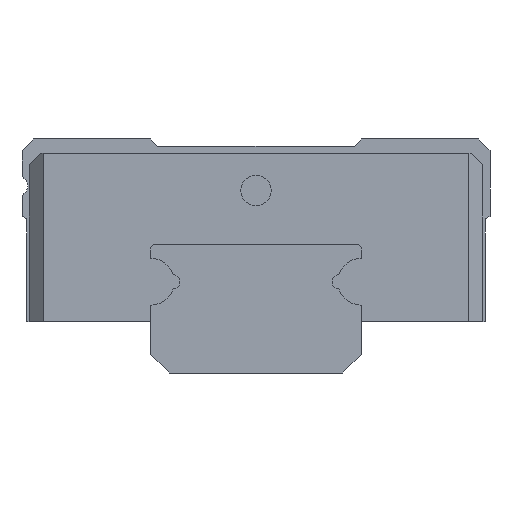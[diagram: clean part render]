
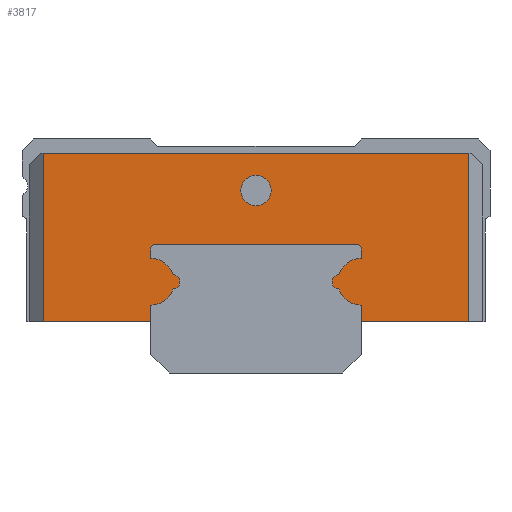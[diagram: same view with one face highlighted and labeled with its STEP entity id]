
A CAD part, left-side view. The second image highlights one B-rep face of the part: STEP entity #3817.
In plain terms, the highlighted planar face has unit normal (-1, 0, 0).
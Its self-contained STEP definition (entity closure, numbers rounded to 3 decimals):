
#1997=CARTESIAN_POINT('',(0.0,9.1,9.4));
#1998=VERTEX_POINT('',#1997);
#2005=CARTESIAN_POINT('',(0.0,-9.1,9.4));
#2006=VERTEX_POINT('',#2005);
#2007=CARTESIAN_POINT('',(0.0,-9.1,9.4));
#2008=DIRECTION('',(0.0,1.0,0.0));
#2009=VECTOR('',#2008,18.2);
#2010=LINE('',#2007,#2009);
#2011=EDGE_CURVE('',#2006,#1998,#2010,.T.);
#2124=CARTESIAN_POINT('',(0.0,4.5,2.2));
#2125=VERTEX_POINT('',#2124);
#2132=CARTESIAN_POINT('',(0.0,9.1,2.2));
#2133=VERTEX_POINT('',#2132);
#2134=CARTESIAN_POINT('',(0.0,9.1,2.2));
#2135=DIRECTION('',(0.0,-1.0,0.0));
#2136=VECTOR('',#2135,4.6);
#2137=LINE('',#2134,#2136);
#2138=EDGE_CURVE('',#2133,#2125,#2137,.T.);
#2273=CARTESIAN_POINT('',(0.0,0.65,7.8));
#2274=VERTEX_POINT('',#2273);
#2275=CARTESIAN_POINT('',(0.0,0.,7.8));
#2276=DIRECTION('',(1.0,0.0,0.0));
#2277=DIRECTION('',(0.0,-1.0,0.0));
#2278=AXIS2_PLACEMENT_3D('',#2275,#2276,#2277);
#2279=CIRCLE('',#2278,0.65);
#2280=EDGE_CURVE('',#2274,#2274,#2279,.T.);
#3236=CARTESIAN_POINT('',(0.0,9.1,9.4));
#3237=DIRECTION('',(0.0,0.0,-1.0));
#3238=VECTOR('',#3237,7.2);
#3239=LINE('',#3236,#3238);
#3240=EDGE_CURVE('',#1998,#2133,#3239,.T.);
#3270=CARTESIAN_POINT('',(0.0,-9.1,2.2));
#3271=VERTEX_POINT('',#3270);
#3272=CARTESIAN_POINT('',(0.0,-9.1,2.2));
#3273=DIRECTION('',(0.0,0.0,1.0));
#3274=VECTOR('',#3273,7.2);
#3275=LINE('',#3272,#3274);
#3276=EDGE_CURVE('',#3271,#2006,#3275,.T.);
#3324=CARTESIAN_POINT('',(0.0,4.5,2.9));
#3325=VERTEX_POINT('',#3324);
#3332=CARTESIAN_POINT('',(0.0,4.5,2.2));
#3333=DIRECTION('',(0.0,0.0,1.0));
#3334=VECTOR('',#3333,0.7);
#3335=LINE('',#3332,#3334);
#3336=EDGE_CURVE('',#2125,#3325,#3335,.T.);
#3356=CARTESIAN_POINT('',(0.0,3.546,3.6));
#3357=VERTEX_POINT('',#3356);
#3364=CARTESIAN_POINT('',(0.0,4.5,3.9));
#3365=DIRECTION('',(-1.0,0.0,0.0));
#3366=DIRECTION('',(0.0,0.954,0.3));
#3367=AXIS2_PLACEMENT_3D('',#3364,#3365,#3366);
#3368=CIRCLE('',#3367,1.0);
#3369=EDGE_CURVE('',#3325,#3357,#3368,.T.);
#3389=CARTESIAN_POINT('',(0.0,3.546,4.2));
#3390=VERTEX_POINT('',#3389);
#3397=CARTESIAN_POINT('',(0.0,3.55,3.9));
#3398=DIRECTION('',(-1.0,0.0,0.0));
#3399=DIRECTION('',(0.0,0.013,-1.));
#3400=AXIS2_PLACEMENT_3D('',#3397,#3398,#3399);
#3401=CIRCLE('',#3400,0.3);
#3402=EDGE_CURVE('',#3357,#3390,#3401,.T.);
#3422=CARTESIAN_POINT('',(0.0,4.5,4.9));
#3423=VERTEX_POINT('',#3422);
#3430=CARTESIAN_POINT('',(0.0,4.5,3.9));
#3431=DIRECTION('',(-1.0,0.0,0.0));
#3432=DIRECTION('',(0.0,0.0,-1.0));
#3433=AXIS2_PLACEMENT_3D('',#3430,#3431,#3432);
#3434=CIRCLE('',#3433,1.0);
#3435=EDGE_CURVE('',#3390,#3423,#3434,.T.);
#3454=CARTESIAN_POINT('',(0.0,4.5,5.3));
#3455=VERTEX_POINT('',#3454);
#3462=CARTESIAN_POINT('',(0.0,4.5,4.9));
#3463=DIRECTION('',(0.0,0.,1.0));
#3464=VECTOR('',#3463,0.4);
#3465=LINE('',#3462,#3464);
#3466=EDGE_CURVE('',#3423,#3455,#3465,.T.);
#3486=CARTESIAN_POINT('',(0.0,4.3,5.5));
#3487=VERTEX_POINT('',#3486);
#3494=CARTESIAN_POINT('',(0.0,4.3,5.3));
#3495=DIRECTION('',(1.0,0.0,0.0));
#3496=DIRECTION('',(0.0,1.0,0.0));
#3497=AXIS2_PLACEMENT_3D('',#3494,#3495,#3496);
#3498=CIRCLE('',#3497,0.2);
#3499=EDGE_CURVE('',#3455,#3487,#3498,.T.);
#3518=CARTESIAN_POINT('',(0.0,-4.3,5.5));
#3519=VERTEX_POINT('',#3518);
#3526=CARTESIAN_POINT('',(0.0,4.3,5.5));
#3527=DIRECTION('',(0.0,-1.0,0.0));
#3528=VECTOR('',#3527,8.6);
#3529=LINE('',#3526,#3528);
#3530=EDGE_CURVE('',#3487,#3519,#3529,.T.);
#3550=CARTESIAN_POINT('',(0.0,-4.5,5.3));
#3551=VERTEX_POINT('',#3550);
#3558=CARTESIAN_POINT('',(0.0,-4.3,5.3));
#3559=DIRECTION('',(1.0,0.0,0.0));
#3560=DIRECTION('',(0.0,0.0,1.0));
#3561=AXIS2_PLACEMENT_3D('',#3558,#3559,#3560);
#3562=CIRCLE('',#3561,0.2);
#3563=EDGE_CURVE('',#3519,#3551,#3562,.T.);
#3582=CARTESIAN_POINT('',(0.0,-4.5,4.9));
#3583=VERTEX_POINT('',#3582);
#3590=CARTESIAN_POINT('',(0.0,-4.5,5.3));
#3591=DIRECTION('',(0.0,0.,-1.0));
#3592=VECTOR('',#3591,0.4);
#3593=LINE('',#3590,#3592);
#3594=EDGE_CURVE('',#3551,#3583,#3593,.T.);
#3614=CARTESIAN_POINT('',(0.0,-3.546,4.2));
#3615=VERTEX_POINT('',#3614);
#3622=CARTESIAN_POINT('',(0.0,-4.5,3.9));
#3623=DIRECTION('',(-1.0,0.0,0.0));
#3624=DIRECTION('',(0.0,-0.954,-0.3));
#3625=AXIS2_PLACEMENT_3D('',#3622,#3623,#3624);
#3626=CIRCLE('',#3625,1.);
#3627=EDGE_CURVE('',#3583,#3615,#3626,.T.);
#3647=CARTESIAN_POINT('',(0.0,-3.546,3.6));
#3648=VERTEX_POINT('',#3647);
#3655=CARTESIAN_POINT('',(0.0,-3.55,3.9));
#3656=DIRECTION('',(-1.0,0.0,0.0));
#3657=DIRECTION('',(0.0,-0.013,1.));
#3658=AXIS2_PLACEMENT_3D('',#3655,#3656,#3657);
#3659=CIRCLE('',#3658,0.3);
#3660=EDGE_CURVE('',#3615,#3648,#3659,.T.);
#3680=CARTESIAN_POINT('',(0.0,-4.5,2.9));
#3681=VERTEX_POINT('',#3680);
#3688=CARTESIAN_POINT('',(0.0,-4.5,3.9));
#3689=DIRECTION('',(-1.0,0.0,0.0));
#3690=DIRECTION('',(0.0,0.0,1.0));
#3691=AXIS2_PLACEMENT_3D('',#3688,#3689,#3690);
#3692=CIRCLE('',#3691,1.);
#3693=EDGE_CURVE('',#3648,#3681,#3692,.T.);
#3712=CARTESIAN_POINT('',(0.0,-4.5,2.2));
#3713=VERTEX_POINT('',#3712);
#3720=CARTESIAN_POINT('',(0.0,-4.5,2.9));
#3721=DIRECTION('',(0.0,0.0,-1.0));
#3722=VECTOR('',#3721,0.7);
#3723=LINE('',#3720,#3722);
#3724=EDGE_CURVE('',#3681,#3713,#3723,.T.);
#3737=CARTESIAN_POINT('',(0.0,-4.5,2.2));
#3738=DIRECTION('',(0.0,-1.0,0.0));
#3739=VECTOR('',#3738,4.6);
#3740=LINE('',#3737,#3739);
#3741=EDGE_CURVE('',#3713,#3271,#3740,.T.);
#3789=CARTESIAN_POINT('',(0.0,0.,5.988));
#3790=DIRECTION('',(1.0,0.0,0.0));
#3791=DIRECTION('',(0.0,0.0,-1.0));
#3792=AXIS2_PLACEMENT_3D('',#3789,#3790,#3791);
#3793=PLANE('',#3792);
#3794=ORIENTED_EDGE('',*,*,#3276,.T.);
#3795=ORIENTED_EDGE('',*,*,#2011,.T.);
#3796=ORIENTED_EDGE('',*,*,#3240,.T.);
#3797=ORIENTED_EDGE('',*,*,#2138,.T.);
#3798=ORIENTED_EDGE('',*,*,#3336,.T.);
#3799=ORIENTED_EDGE('',*,*,#3369,.T.);
#3800=ORIENTED_EDGE('',*,*,#3402,.T.);
#3801=ORIENTED_EDGE('',*,*,#3435,.T.);
#3802=ORIENTED_EDGE('',*,*,#3466,.T.);
#3803=ORIENTED_EDGE('',*,*,#3499,.T.);
#3804=ORIENTED_EDGE('',*,*,#3530,.T.);
#3805=ORIENTED_EDGE('',*,*,#3563,.T.);
#3806=ORIENTED_EDGE('',*,*,#3594,.T.);
#3807=ORIENTED_EDGE('',*,*,#3627,.T.);
#3808=ORIENTED_EDGE('',*,*,#3660,.T.);
#3809=ORIENTED_EDGE('',*,*,#3693,.T.);
#3810=ORIENTED_EDGE('',*,*,#3724,.T.);
#3811=ORIENTED_EDGE('',*,*,#3741,.T.);
#3812=EDGE_LOOP('',(#3794,#3795,#3796,#3797,#3798,#3799,#3800,#3801,#3802,#3803,#3804,#3805,#3806,#3807,#3808,#3809,#3810,#3811));
#3813=FACE_OUTER_BOUND('',#3812,.T.);
#3814=ORIENTED_EDGE('',*,*,#2280,.T.);
#3815=EDGE_LOOP('',(#3814));
#3816=FACE_BOUND('',#3815,.T.);
#3817=ADVANCED_FACE('',(#3813,#3816),#3793,.F.);
